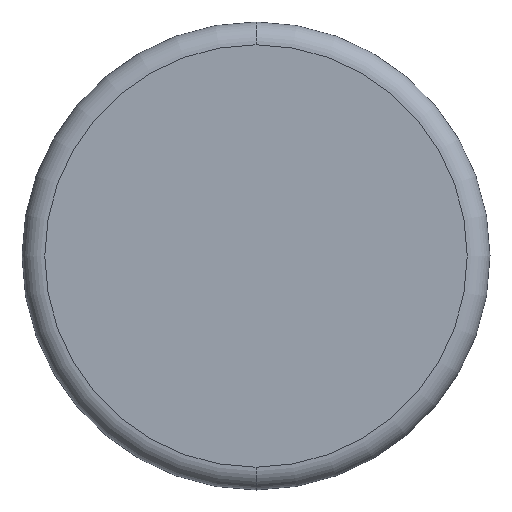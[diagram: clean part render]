
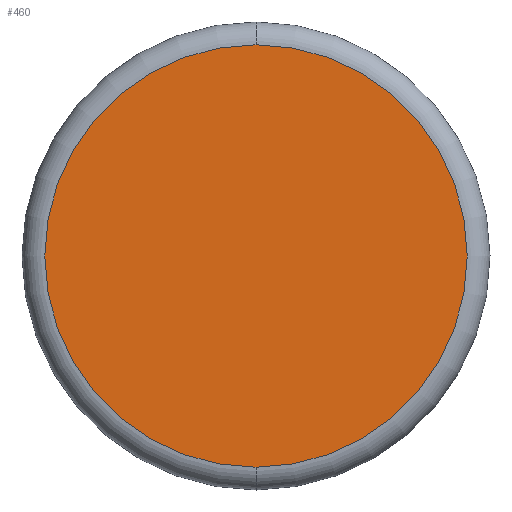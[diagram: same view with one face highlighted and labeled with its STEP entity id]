
A CAD part, left-side view. The second image highlights one B-rep face of the part: STEP entity #460.
In plain terms, the highlighted planar face has unit normal (-1, 0, 0).
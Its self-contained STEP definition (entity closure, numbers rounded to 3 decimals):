
#49=CARTESIAN_POINT('',(-20.4,0.,-31.5));
#50=VERTEX_POINT('',#49);
#60=CARTESIAN_POINT('',(-20.4,31.5,0.0));
#61=VERTEX_POINT('',#60);
#62=CARTESIAN_POINT('',(-20.4,0.,0.0));
#63=DIRECTION('',(1.0,0.0,0.0));
#64=DIRECTION('',(0.0,1.0,0.0));
#65=AXIS2_PLACEMENT_3D('',#62,#63,#64);
#66=CIRCLE('',#65,31.5);
#67=EDGE_CURVE('',#50,#61,#66,.T.);
#69=CARTESIAN_POINT('',(-20.4,0.,31.5));
#70=VERTEX_POINT('',#69);
#71=CARTESIAN_POINT('',(-20.4,0.,0.0));
#72=DIRECTION('',(1.0,0.0,0.0));
#73=DIRECTION('',(0.0,1.0,0.0));
#74=AXIS2_PLACEMENT_3D('',#71,#72,#73);
#75=CIRCLE('',#74,31.5);
#76=EDGE_CURVE('',#61,#70,#75,.T.);
#444=CARTESIAN_POINT('',(-20.4,15.75,0.0));
#445=DIRECTION('',(-1.0,0.0,0.0));
#446=DIRECTION('',(0.0,0.0,1.0));
#447=AXIS2_PLACEMENT_3D('',#444,#445,#446);
#448=PLANE('',#447);
#449=ORIENTED_EDGE('',*,*,#76,.F.);
#450=ORIENTED_EDGE('',*,*,#67,.F.);
#451=CARTESIAN_POINT('',(-20.4,0.,0.0));
#452=DIRECTION('',(1.0,0.0,0.0));
#453=DIRECTION('',(0.0,1.0,0.0));
#454=AXIS2_PLACEMENT_3D('',#451,#452,#453);
#455=CIRCLE('',#454,31.5);
#456=EDGE_CURVE('',#70,#50,#455,.T.);
#457=ORIENTED_EDGE('',*,*,#456,.F.);
#458=EDGE_LOOP('',(#449,#450,#457));
#459=FACE_OUTER_BOUND('',#458,.T.);
#460=ADVANCED_FACE('',(#459),#448,.T.);
